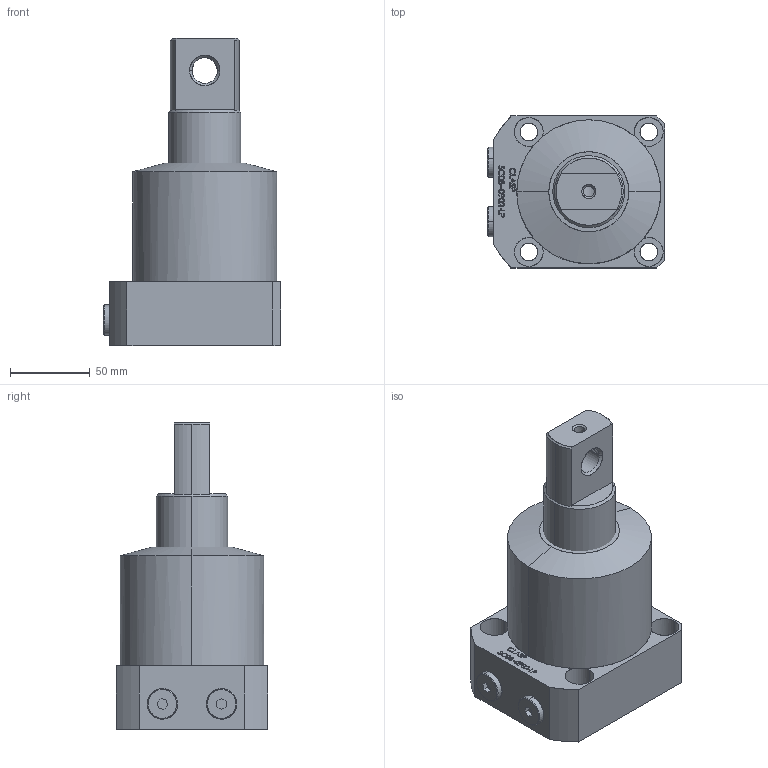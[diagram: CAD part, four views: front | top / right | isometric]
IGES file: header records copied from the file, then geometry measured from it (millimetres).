
Start section: SolidWorks IGES file using analytic representation for surfaces
Global section: file name: D:\karuppas\Clasp\3D model\SWING CYLINDER\Bottom Mounting swing cylinder-P type\SC08-0902-LP\SC08-0902-LP.IGS; native system: SolidWorks 2017; preprocessor: SolidWorks 2017; author: pc; date: 220708.223620; units: millimetre
Bounding box: 111 x 95 x 192 mm (x, y, z)
Surface area: 81693.6 mm2 (no closed solid volume)
Topology: 0 solids, 0 shells, 336 faces, 5406 edges, 5406 vertices
Faces by surface type: bspline 264, revolution 72
